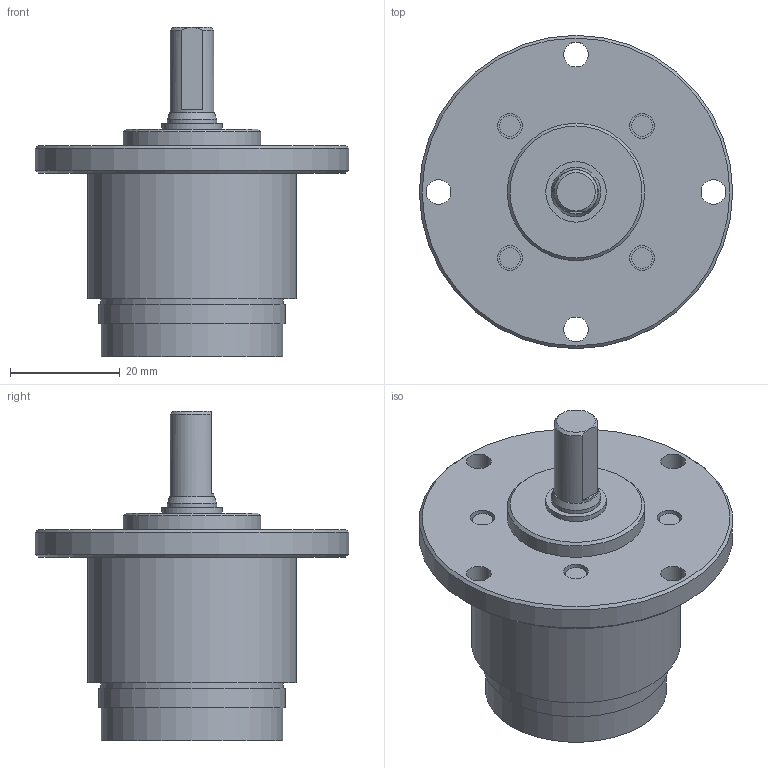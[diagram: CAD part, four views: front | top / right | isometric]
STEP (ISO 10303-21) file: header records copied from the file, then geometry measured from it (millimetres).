
FILE_DESCRIPTION(/* description */ (''),/* implementation_level */ '2;1');
FILE_NAME(/* name */ '38-1_3.stp',/* time_stamp */ '2016-09-15T17:39:47+02:00',/* author */ ('DR. FRITZ FAULHABER GmbH & Co. KG'),/* organization */ ('DR. FRITZ FAULHABER GmbH & Co. KG'),/* preprocessor_version */ 'ST-DEVELOPER v16',/* originating_system */ 'SIEMENS PLM Software NX 10.0',/* authorisation */ '');
FILE_SCHEMA (('AUTOMOTIVE_DESIGN { 1 0 10303 214 3 1 1 1 }'));
Length unit declared in the file: millimetre
Products named in the file (1): huge1AD871C9jgye
Bounding box: 57 x 57 x 59.9 mm (x, y, z)
Volume: 49328.7 mm3; surface area: 11093.2 mm2
Topology: 1 solids, 1 shells, 54 faces, 99 edges, 67 vertices
Faces by surface type: cylinder 25, plane 24, cone 5
Full cylindrical faces by diameter (mm): 3.8 x4, 4.5 x8, 8 x1, 9 x1, 11 x1, 11.8 x1, 12 x1, 25 x1, 26.9 x1, 27.57 x1, 33 x1, 33.2 x1, 34 x1, 38 x1, 57 x1
Entity records: 1190 total; most frequent: DIRECTION 225, CARTESIAN_POINT 183, ORIENTED_EDGE 122, EDGE_LOOP 111, AXIS2_PLACEMENT_3D 111, FACE_BOUND 102, EDGE_CURVE 61, VERTEX_POINT 58
